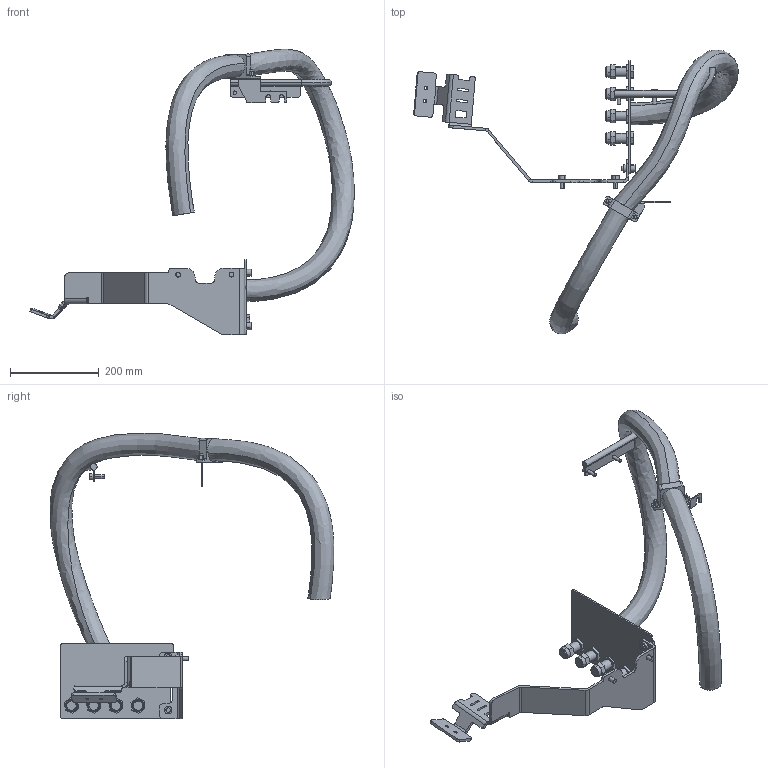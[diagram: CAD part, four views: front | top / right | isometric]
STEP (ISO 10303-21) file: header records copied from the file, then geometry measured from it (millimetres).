
FILE_DESCRIPTION (( 'STEP AP214' ), '1' );
FILE_NAME ('IRB6730-MH3_240kg-290_OC_00_LINK03a_CABLE.step', '2026-05-26T09:34:55', ( '' ), ( '' ), 'SwSTEP 2.0', 'SolidWorks 2024', '' );
FILE_SCHEMA (( 'AUTOMOTIVE_DESIGN' ));
Length unit declared in the file: millimetre
Products named in the file (1): IRB6730-MH3_240kg-290_OC_00_LINK03a_CABLE
Bounding box: 732.02 x 639.59 x 644.52 mm (x, y, z)
Volume: 3751604.9 mm3; surface area: 518374.9 mm2
Topology: 1 solids, 5 shells, 496 faces, 1201 edges, 766 vertices
Faces by surface type: plane 291, cylinder 171, cone 20, torus 10, bspline 4
Entity records: 22557 total; most frequent: CARTESIAN_POINT 5135, DIRECTION 2587, ORIENTED_EDGE 2402, EDGE_CURVE 1201, AXIS2_PLACEMENT_3D 915, VERTEX_POINT 766, VECTOR 757, LINE 757
